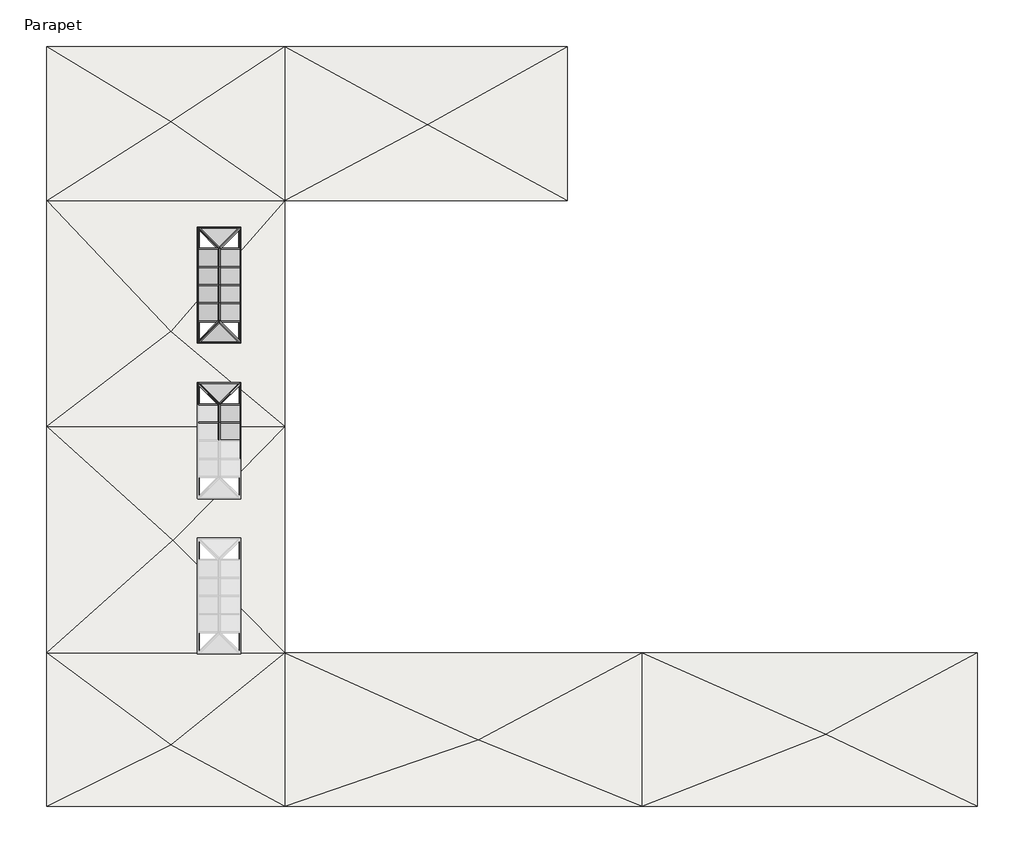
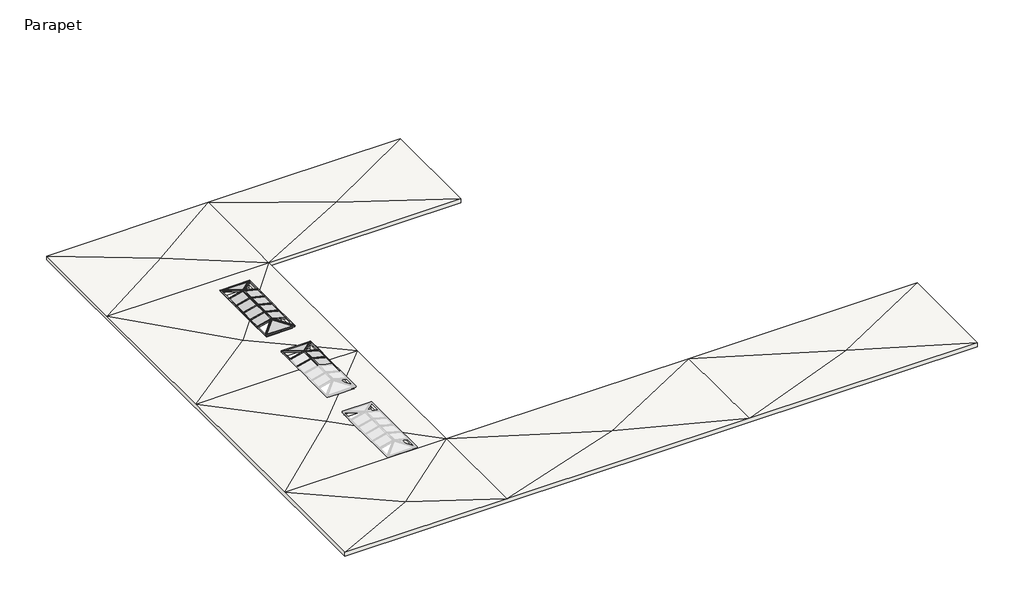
# One storey, part 2 of 2: 57 members, 13 plates, 1 roof.
"""IFC4 building model written with IfcOpenShell, lengths in millimetres."""

import ifcopenshell
import ifcopenshell.guid

model = None  # the IFC model being written
_history = None  # IfcOwnerHistory: only IFC2X3 demands one
_inside = {}  # id of a spatial element -> (the spatial element, [elements in it])
_under = {}  # id of a project, library or spatial element -> (it, [spatial elements below it])
_declared = {}  # id of a project -> (the project, [libraries it declares])
_typed = {}  # id of a type object -> (the type object, [elements of that type])
_made_of = {}  # id of a material, layer set ... -> (it, [elements and type objects made of it])


def new_model(schema):
    """Start an empty IFC model of exactly this schema.

    Asked for "IFC4X3", IfcOpenShell would pick the latest addendum, in which some entities
    have other attributes; the version numbers below select the first issue.
    IFC2X3 requires an IfcOwnerHistory on every rooted entity: one is made here for all.
    """
    global model, _history
    if schema == "IFC4X3":
        model = ifcopenshell.file(schema_version=(4, 3, 0, 0))
    else:
        model = ifcopenshell.file(schema=schema)
    _inside.clear()
    _under.clear()
    _declared.clear()
    _typed.clear()
    _made_of.clear()
    _history = None
    if model.schema == "IFC2X3":
        org = make("IfcOrganization", Name="unknown")
        user = make(
            "IfcPersonAndOrganization",
            ThePerson=make("IfcPerson", FamilyName="unknown"),
            TheOrganization=org,
        )
        app = make(
            "IfcApplication",
            ApplicationDeveloper=org,
            Version="unknown",
            ApplicationFullName="unknown",
            ApplicationIdentifier="unknown",
        )
        _history = make(
            "IfcOwnerHistory",
            OwningUser=user,
            OwningApplication=app,
            ChangeAction="ADDED",
            CreationDate=0,
        )
    return model


def make(cls, **values):
    """One entity of the class cls with the attributes given. An attribute that is None is left unset."""
    return model.create_entity(
        cls, **{name: value for name, value in values.items() if value is not None}
    )


def rooted(cls, **values):
    """An entity with a GlobalId (a new one), such as an element, a storey or a relation."""
    return make(cls, GlobalId=ifcopenshell.guid.new(), OwnerHistory=_history, **values)


def si_unit(unit_type, name, prefix=None):
    """IfcSIUnit, for example si_unit("LENGTHUNIT", "METRE", prefix="MILLI")."""
    return make("IfcSIUnit", UnitType=unit_type, Prefix=prefix, Name=name)


def assignment(units):
    """IfcUnitAssignment: the units of a project."""
    return None if units is None else make("IfcUnitAssignment", Units=units)


def point(xyz):
    """IfcCartesianPoint."""
    return None if xyz is None else make("IfcCartesianPoint", Coordinates=xyz)


def direction(xyz):
    """IfcDirection."""
    return None if xyz is None else make("IfcDirection", DirectionRatios=xyz)


def frame(location, z_axis=None, x_axis=None):
    """IfcAxis2Placement3D, a coordinate frame: its origin and axes. An axis left out is left unset."""
    return make(
        "IfcAxis2Placement3D",
        Location=point(location),
        Axis=direction(z_axis),
        RefDirection=direction(x_axis),
    )


def origin():
    """The frame at (0, 0, 0) with its axes left unset."""
    return frame((0.0, 0.0, 0.0))


def origin_with_axes():
    """The frame at (0, 0, 0) with the z axis (0, 0, 1) and the x axis (1, 0, 0) written out."""
    return frame((0.0, 0.0, 0.0), z_axis=(0.0, 0.0, 1.0), x_axis=(1.0, 0.0, 0.0))


def place(relative_to, where):
    """IfcLocalPlacement: puts the frame where relative to a parent placement (None: the world)."""
    return make(
        "IfcLocalPlacement", PlacementRelTo=relative_to, RelativePlacement=where
    )


def context(
    kind, dimensions, precision=None, world=None, true_north=None, identifier=None
):
    """IfcGeometricRepresentationContext, for example the 3D "Model" context."""
    return make(
        "IfcGeometricRepresentationContext",
        ContextIdentifier=identifier,
        ContextType=kind,
        CoordinateSpaceDimension=dimensions,
        Precision=precision,
        WorldCoordinateSystem=world,
        TrueNorth=true_north,
    )


def project(units=None, contexts=None):
    """IfcProject with its units and contexts."""
    return rooted(
        "IfcProject",
        Name="project",
        RepresentationContexts=contexts,
        UnitsInContext=assignment(units),
    )


def spatial(cls, under=None, at=None, **own):
    """A site, building, storey or space (cls), placed at a placement, below another one or the project."""
    s = rooted(cls, ObjectPlacement=at, **own)
    if under is not None:
        _under.setdefault(under.id(), (under, []))[1].append(s)
    return s


def polyline(points):
    """IfcPolyline through the points."""
    return make("IfcPolyline", Points=[point(p) for p in points])


def outline(outer, holes=None, kind="AREA"):
    """IfcArbitraryClosedProfileDef: a profile drawn as a closed curve; with holes, ...WithVoids."""
    if holes is None:
        return make("IfcArbitraryClosedProfileDef", ProfileType=kind, OuterCurve=outer)
    return make(
        "IfcArbitraryProfileDefWithVoids",
        ProfileType=kind,
        OuterCurve=outer,
        InnerCurves=holes,
    )


def extrude(swept, where, along, depth):
    """IfcExtrudedAreaSolid: the profile swept, set in the frame where, extruded along a direction by depth."""
    return make(
        "IfcExtrudedAreaSolid",
        SweptArea=swept,
        Position=where,
        ExtrudedDirection=direction(along),
        Depth=depth,
    )


def faces_of(points, faces, orient=None, outer=None):
    """IfcFace entities. A face is a list of loops; a loop is a list of indices into points, from 0.

    orient and outer hold one flag for each loop. By default every Orientation is true, the
    first loop of a face is its IfcFaceOuterBound and the others are IfcFaceBound.
    """
    made = []
    for i, loops in enumerate(faces):
        bounds = []
        for j, loop in enumerate(loops):
            is_outer = j == 0 if outer is None else outer[i][j]
            bounds.append(
                make(
                    "IfcFaceOuterBound" if is_outer else "IfcFaceBound",
                    Bound=make("IfcPolyLoop", Polygon=[points[k] for k in loop]),
                    Orientation=True if orient is None else orient[i][j],
                )
            )
        made.append(make("IfcFace", Bounds=bounds))
    return made


def faceted_brep(points, faces, orient=None, outer=None, voids=None):
    """IfcFacetedBrep: a solid bounded by flat faces; with voids (closed shells), ...WithVoids."""
    shared = [point(p) for p in points]
    hull = make("IfcClosedShell", CfsFaces=faces_of(shared, faces, orient, outer))
    if voids is None:
        return make("IfcFacetedBrep", Outer=hull)
    return make(
        "IfcFacetedBrepWithVoids",
        Outer=hull,
        Voids=[
            make(cls, CfsFaces=faces_of(shared, fs, o, b)) for cls, fs, o, b in voids
        ],
    )


def shape(context_of_items, identifier, shape_type, items):
    """IfcShapeRepresentation: the items that make up one representation, for example the "Body"."""
    return make(
        "IfcShapeRepresentation",
        ContextOfItems=context_of_items,
        RepresentationIdentifier=identifier,
        RepresentationType=shape_type,
        Items=items,
    )


def source(mapping_origin, context_of_items, identifier, shape_type, items):
    """IfcRepresentationMap: a shape defined once, which mapped items show again and again."""
    return make(
        "IfcRepresentationMap",
        MappingOrigin=mapping_origin,
        MappedRepresentation=shape(context_of_items, identifier, shape_type, items),
    )


def transform(
    local_origin,
    x_axis=None,
    y_axis=None,
    z_axis=None,
    scale=None,
    scale2=None,
    scale3=None,
    uniform=True,
):
    """IfcCartesianTransformationOperator3D, or its non-uniform kind. x_axis, y_axis, z_axis: its Axis1, 2, 3."""
    if uniform:
        return make(
            "IfcCartesianTransformationOperator3D",
            Axis1=direction(x_axis),
            Axis2=direction(y_axis),
            LocalOrigin=point(local_origin),
            Scale=scale,
            Axis3=direction(z_axis),
        )
    return make(
        "IfcCartesianTransformationOperator3DnonUniform",
        Axis1=direction(x_axis),
        Axis2=direction(y_axis),
        LocalOrigin=point(local_origin),
        Scale=scale,
        Axis3=direction(z_axis),
        Scale2=scale2,
        Scale3=scale3,
    )


def mapped(mapping_source, mapping_target):
    """IfcMappedItem: shows the shape of a source again, moved by a transform."""
    return make(
        "IfcMappedItem", MappingSource=mapping_source, MappingTarget=mapping_target
    )


def made_of(thing, what):
    """Note that an element or type object is made of a material, layer set ...; save() writes the relation."""
    if what is not None:
        _made_of.setdefault(what.id(), (what, []))[1].append(thing)
    return thing


def element(
    cls,
    number,
    at=None,
    inside=None,
    cuts=None,
    type_object=None,
    material=None,
    context=None,
    identifier="Body",
    shape_type=None,
    held_by="IfcProductDefinitionShape",
    body=None,
    shapes=None,
    **own,
):
    """One element of the class cls, such as IfcWall. Its Tag is "e" and its number.

    at: its placement. inside: the storey or other place that contains it. cuts: it is an
    opening in that element (IfcRelVoidsElement). A single representation is given by context,
    identifier, shape_type and body (its items); several are given by shapes. held_by: the class
    of the entity that holds the representations. save() writes the other relations.
    """
    e = rooted(cls, Tag="e%d" % number, ObjectPlacement=at, **own)
    if body is not None:
        shapes = [shape(context, identifier, shape_type, body)]
    if shapes is not None:
        e.Representation = make(held_by, Representations=shapes)
    if inside is not None:
        _inside.setdefault(inside.id(), (inside, []))[1].append(e)
    if cuts is not None:
        rooted(
            "IfcRelVoidsElement", RelatingBuildingElement=cuts, RelatedOpeningElement=e
        )
    if type_object is not None:
        _typed.setdefault(type_object.id(), (type_object, []))[1].append(e)
    return made_of(e, material)


def aggregate(whole, parts):
    """IfcRelAggregates: a whole, such as a stair, and the parts it consists of."""
    return rooted("IfcRelAggregates", RelatingObject=whole, RelatedObjects=parts)


def save(model, path):
    """Write the relations noted so far, then the file.

    IfcRelAggregates (storeys below a building ...), IfcRelContainedInSpatialStructure (elements
    in a storey), IfcRelDefinesByType, IfcRelAssociatesMaterial and IfcRelDeclares: one each for
    every whole, place, type object, material and project.
    """
    for whole, parts in _under.values():
        aggregate(whole, parts)
    for where, things in _inside.values():
        rooted(
            "IfcRelContainedInSpatialStructure",
            RelatedElements=things,
            RelatingStructure=where,
        )
    for kind, things in _typed.values():
        rooted("IfcRelDefinesByType", RelatedObjects=things, RelatingType=kind)
    for what, things in _made_of.values():
        rooted("IfcRelAssociatesMaterial", RelatedObjects=things, RelatingMaterial=what)
    for by, libraries in _declared.values():
        rooted("IfcRelDeclares", RelatingContext=by, RelatedDefinitions=libraries)
    model.write(path)


def member_01a96303(model_context):
    return source(origin(), model_context, "Body", "SweptSolid", [
        extrude(outline(polyline([(31.75, 63.5), (31.75, -63.5), (-31.75, -63.5), (-31.75, 63.5), (31.75, 63.5)])), frame((0.0, 0.0, -1441.8416906), z_axis=(0.0, 0.0, 1.0), x_axis=(1.0, 0.0, 0.0)), (0.0, 0.0, 1.0), 1441.8416906),
    ])


def member_1078ffe1(model_context):
    return source(origin(), model_context, "Body", "SweptSolid", [
        extrude(outline(polyline([(0.0, 0.0), (-150.0761281, -63.5), (-1524.0, -63.5), (-1524.0, 0.0), (0.0, 0.0)])), frame((0.0, -63.5, 0.0), z_axis=(0.0, 1.0, 0.0), x_axis=(0.0, 0.0, 1.0)), (0.0, 0.0, 1.0), 127.0),
    ])


def member_190da285(model_context):
    return source(origin(), model_context, "Body", "SweptSolid", [
        extrude(outline(polyline([(0.0, 0.0), (-150.0761281, -63.5), (-2185.8060871, -63.5), (-2185.8060871, 0.0), (0.0, 0.0)])), frame((0.0, -63.5, 0.0), z_axis=(0.0, 1.0, 0.0), x_axis=(0.0, 0.0, 1.0)), (0.0, 0.0, 1.0), 127.0),
    ])


def member_63bf33d2(model_context):
    return source(origin(), model_context, "Body", "SweptSolid", [
        extrude(outline(polyline([(0.0, 0.0), (0.0, -63.5), (-2035.729959, -63.5), (-2185.8060871, 0.0), (0.0, 0.0)])), frame((0.0, -63.5, 0.0), z_axis=(0.0, 1.0, 0.0), x_axis=(0.0, 0.0, 1.0)), (0.0, 0.0, 1.0), 127.0),
    ])


def member_51997095(model_context):
    return source(origin(), model_context, "Body", "SweptSolid", [
        extrude(outline(polyline([(0.0, 63.5), (0.0, -63.5), (-63.5, -63.5), (-63.5, 63.5), (0.0, 63.5)])), frame((0.0, 0.0, -1314.45), z_axis=(0.0, 0.0, 1.0), x_axis=(1.0, 0.0, 0.0)), (0.0, 0.0, 1.0), 1314.45),
    ])


def member_5783932f(model_context):
    return source(origin(), model_context, "Body", "SweptSolid", [
        extrude(outline(polyline([(0.0, 63.5), (0.0, -63.5), (-63.5, -63.5), (-63.5, 63.5), (0.0, 63.5)])), frame((0.0, 0.0, -1282.7), z_axis=(0.0, 0.0, 1.0), x_axis=(1.0, 0.0, 0.0)), (0.0, 0.0, 1.0), 1282.7),
    ])


def member_8e9367d3(model_context):
    return source(origin(), model_context, "Body", "SweptSolid", [
        extrude(outline(polyline([(0.0, 0.0), (0.0, -63.5), (-1373.9238719, -63.5), (-1524.0, 0.0), (0.0, 0.0)])), frame((0.0, -63.5, 0.0), z_axis=(0.0, 1.0, 0.0), x_axis=(0.0, 0.0, 1.0)), (0.0, 0.0, 1.0), 127.0),
    ])


def member_bf957473(model_context):
    return source(origin(), model_context, "Body", "SweptSolid", [
        extrude(outline(polyline([(0.0, 0.0), (-150.0761281, -63.5), (-2120.3517853, -63.5), (-2185.8060871, 0.0), (0.0, 0.0)])), frame((0.0, -63.5, 0.0), z_axis=(0.0, 1.0, 0.0), x_axis=(0.0, 0.0, 1.0)), (0.0, 0.0, 1.0), 127.0),
    ])


def member_35848865(model_context):
    return source(origin(), model_context, "Body", "SweptSolid", [
        extrude(outline(polyline([(0.0, 0.0), (-65.4543018, -63.5), (-2035.729959, -63.5), (-2185.8060871, 0.0), (0.0, 0.0)])), frame((0.0, -63.5, 0.0), z_axis=(0.0, 1.0, 0.0), x_axis=(0.0, 0.0, 1.0)), (0.0, 0.0, 1.0), 127.0),
    ])


def member_aca151d9(model_context):
    return source(origin(), model_context, "Body", "SweptSolid", [
        extrude(outline(polyline([(0.0, 0.0), (-150.0761281, -63.5), (-2893.923872, -63.5), (-3044.0000001, 0.0), (0.0, 0.0)])), frame((0.0, -63.5, 0.0), z_axis=(0.0, 1.0, 0.0), x_axis=(0.0, 0.0, 1.0)), (0.0, 0.0, 1.0), 127.0),
    ])


def system_panel_glazed_08fbef77(model_context):
    return source(origin(), model_context, "Body", "SweptSolid", [
        extrude(outline(polyline([(609.6, 19.05), (-609.6, 19.05), (-609.6, 44.45), (609.6, 44.45), (609.6, 19.05)])), origin_with_axes(), (0.0, 0.0, 1.0), 1441.8416906),
    ])


def system_panel_glazed_1440a41f(model_context):
    return source(origin(), model_context, "Body", "SweptSolid", [
        extrude(outline(polyline([(0.0, -1371.923872), (0.0, 1371.923872), (1414.1467586, 0.0), (0.0, -1371.923872)])), frame((0.0, 19.05, 0.0), z_axis=(0.0, 1.0, 0.0), x_axis=(0.0, 0.0, 1.0)), (0.0, 0.0, 1.0), 25.4),
    ])


model = new_model("IFC4")

# Units and contexts
model_context = context("Model", 3, world=origin())
ifc_project = project(units=[si_unit("LENGTHUNIT", "METRE", prefix="MILLI")], contexts=[model_context])

# Site, building, storey
site = spatial("IfcSite", under=ifc_project)
building = spatial("IfcBuilding", under=site)
storey = spatial("IfcBuildingStorey", under=building, Name="Parapet", Elevation=11582.4)

# Members
placement = place(None, origin())
member_shape = member_01a96303(model_context)
element("IfcMember", 1, ObjectType="Rectangular Mullion : 2.5\" x 5\" rectangular", at=placement, inside=storey, context=model_context, shape_type="MappedRepresentation", body=[
    mapped(member_shape, transform((12528.5354039, 34305.8, 11947.4989878), x_axis=(0.0, 1.0, 0.0), y_axis=(-0.24253562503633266, 0.0, -0.9701425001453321), z_axis=(-0.9701425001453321, 0.0, 0.24253562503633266))),
])
element("IfcMember", 2, ObjectType="Rectangular Mullion : 2.5\" x 5\" rectangular", at=placement, inside=storey, context=model_context, shape_type="MappedRepresentation", body=[
    mapped(member_shape, transform((12528.5354039, 39436.6, 11947.4989878), x_axis=(0.0, 1.0, 0.0), y_axis=(-0.24253562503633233, 0.0, -0.9701425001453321), z_axis=(-0.9701425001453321, 0.0, 0.24253562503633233))),
])
element("IfcMember", 3, ObjectType="Rectangular Mullion : 2.5\" x 5\" rectangular", at=placement, inside=storey, context=model_context, shape_type="MappedRepresentation", body=[
    mapped(member_shape, transform((12528.5354039, 36871.2, 11947.4989878), x_axis=(0.0, 1.0, 0.0), y_axis=(-0.24253562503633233, 0.0, -0.9701425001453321), z_axis=(-0.9701425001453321, 0.0, 0.24253562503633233))),
])
element("IfcMember", 4, ObjectType="Rectangular Mullion : 2.5\" x 5\" rectangular", at=placement, inside=storey, context=model_context, shape_type="MappedRepresentation", body=[
    mapped(member_shape, transform((12528.5354039, 38153.9, 11947.4989878), x_axis=(0.0, 1.0, 0.0), y_axis=(-0.24253562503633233, 0.0, -0.9701425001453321), z_axis=(-0.9701425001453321, 0.0, 0.24253562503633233))),
])
element("IfcMember", 5, ObjectType="Rectangular Mullion : 2.5\" x 5\" rectangular", at=placement, inside=storey, context=model_context, shape_type="MappedRepresentation", body=[
    mapped(member_shape, transform((12528.5354039, 35588.5, 11947.4989878), x_axis=(0.0, 1.0, 0.0), y_axis=(-0.24253562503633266, 0.0, -0.9701425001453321), z_axis=(-0.9701425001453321, 0.0, 0.24253562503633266))),
])
element("IfcMember", 6, ObjectType="Rectangular Mullion : 2.5\" x 5\" rectangular", at=placement, inside=storey, context=model_context, shape_type="MappedRepresentation", body=[
    mapped(member_shape, transform((12405.3273064, 39436.6, 11947.4989878), x_axis=(0.0, -1.0, 0.0), y_axis=(0.24253562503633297, 0.0, -0.9701425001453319), z_axis=(0.9701425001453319, 0.0, 0.24253562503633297))),
])
element("IfcMember", 7, ObjectType="Rectangular Mullion : 2.5\" x 5\" rectangular", at=placement, inside=storey, context=model_context, shape_type="MappedRepresentation", body=[
    mapped(member_shape, transform((12405.3273064, 34305.8, 11947.4989878), x_axis=(0.0, -1.0, 0.0), y_axis=(0.24253562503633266, 0.0, -0.9701425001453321), z_axis=(0.9701425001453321, 0.0, 0.24253562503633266))),
])
element("IfcMember", 8, ObjectType="Rectangular Mullion : 2.5\" x 5\" rectangular", at=placement, inside=storey, context=model_context, shape_type="MappedRepresentation", body=[
    mapped(member_shape, transform((12405.3273064, 36871.2, 11947.4989878), x_axis=(0.0, -1.0, 0.0), y_axis=(0.24253562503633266, 0.0, -0.9701425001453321), z_axis=(0.9701425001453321, 0.0, 0.24253562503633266))),
])
element("IfcMember", 9, ObjectType="Rectangular Mullion : 2.5\" x 5\" rectangular", at=placement, inside=storey, context=model_context, shape_type="MappedRepresentation", body=[
    mapped(member_shape, transform((12405.3273064, 35588.5, 11947.4989878), x_axis=(0.0, -1.0, 0.0), y_axis=(0.24253562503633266, 0.0, -0.9701425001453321), z_axis=(0.9701425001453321, 0.0, 0.24253562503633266))),
])
element("IfcMember", 10, ObjectType="Rectangular Mullion : 2.5\" x 5\" rectangular", at=placement, inside=storey, context=model_context, shape_type="MappedRepresentation", body=[
    mapped(member_shape, transform((12405.3273064, 38153.9, 11947.4989878), x_axis=(0.0, -1.0, 0.0), y_axis=(0.24253562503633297, 0.0, -0.9701425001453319), z_axis=(0.9701425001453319, 0.0, 0.24253562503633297))),
])
element("IfcMember", 11, ObjectType="Rectangular Mullion : 2.5\" x 5\" rectangular", at=placement, inside=storey, context=model_context, shape_type="MappedRepresentation", body=[
    mapped(member_shape, transform((12528.5354039, 28448.3989878, 11947.4989878), x_axis=(0.0, 1.0, 0.0), y_axis=(-0.24253562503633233, 0.0, -0.9701425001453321), z_axis=(-0.9701425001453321, 0.0, 0.24253562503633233))),
])
element("IfcMember", 12, ObjectType="Rectangular Mullion : 2.5\" x 5\" rectangular", at=placement, inside=storey, context=model_context, shape_type="MappedRepresentation", body=[
    mapped(member_shape, transform((12528.5354039, 27165.6989878, 11947.4989878), x_axis=(0.0, 1.0, 0.0), y_axis=(-0.24253562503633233, 0.0, -0.9701425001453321), z_axis=(-0.9701425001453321, 0.0, 0.24253562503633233))),
])
element("IfcMember", 13, ObjectType="Rectangular Mullion : 2.5\" x 5\" rectangular", at=placement, inside=storey, context=model_context, shape_type="MappedRepresentation", body=[
    mapped(member_shape, transform((12405.3273064, 28448.3989878, 11947.4989878), x_axis=(0.0, -1.0, 0.0), y_axis=(0.24253562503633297, 0.0, -0.9701425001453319), z_axis=(0.9701425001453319, 0.0, 0.24253562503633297))),
])
element("IfcMember", 14, ObjectType="Rectangular Mullion : 2.5\" x 5\" rectangular", at=placement, inside=storey, context=model_context, shape_type="MappedRepresentation", body=[
    mapped(member_shape, transform((12405.3273064, 27165.6989878, 11947.4989878), x_axis=(0.0, -1.0, 0.0), y_axis=(0.24253562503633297, 0.0, -0.9701425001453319), z_axis=(0.9701425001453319, 0.0, 0.24253562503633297))),
])
member_2_shape = member_1078ffe1(model_context)
element("IfcMember", 15, ObjectType="Rectangular Mullion : 2.5\" x 5\" rectangular", at=placement, inside=storey, context=model_context, shape_type="MappedRepresentation", body=[
    mapped(member_2_shape, transform((13988.9313552, 40960.6, 11582.4), x_axis=(0.970142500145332, 0.0, -0.242535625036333), y_axis=(-0.242535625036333, 0.0, -0.970142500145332), z_axis=(0.0, 1.0, 0.0))),
])
element("IfcMember", 16, ObjectType="Rectangular Mullion : 2.5\" x 5\" rectangular", at=placement, inside=storey, context=model_context, shape_type="MappedRepresentation", body=[
    mapped(member_2_shape, transform((10944.9313551, 32781.8, 11582.4), x_axis=(-0.970142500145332, 0.0, -0.242535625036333), y_axis=(0.242535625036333, 0.0, -0.970142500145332), z_axis=(0.0, -1.0, 0.0))),
])
element("IfcMember", 17, ObjectType="Rectangular Mullion : 2.5\" x 5\" rectangular", at=placement, inside=storey, context=model_context, shape_type="MappedRepresentation", body=[
    mapped(member_2_shape, transform((13988.9313552, 29972.3989878, 11582.4), x_axis=(0.970142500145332, 0.0, -0.242535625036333), y_axis=(-0.242535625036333, 0.0, -0.970142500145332), z_axis=(0.0, 1.0, 0.0))),
])
member_3_shape = member_190da285(model_context)
element("IfcMember", 18, ObjectType="Rectangular Mullion : 2.5\" x 5\" rectangular", at=placement, inside=storey, context=model_context, shape_type="MappedRepresentation", body=[
    mapped(member_3_shape, transform((13988.9313552, 32781.8, 11582.4), x_axis=(-0.6755205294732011, -0.717740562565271, 0.16888013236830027), y_axis=(-0.24253562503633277, 0.0, -0.9701425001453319), z_axis=(0.696310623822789, -0.696310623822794, -0.174077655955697))),
])
member_4_shape = member_63bf33d2(model_context)
element("IfcMember", 19, ObjectType="Rectangular Mullion : 2.5\" x 5\" rectangular", at=placement, inside=storey, context=model_context, shape_type="MappedRepresentation", body=[
    mapped(member_4_shape, transform((12466.9313552, 39438.5999999, 11962.9), x_axis=(-0.6755205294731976, 0.7177405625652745, 0.1688801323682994), y_axis=(-0.24253562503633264, 0.0, -0.970142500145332), z_axis=(-0.6963106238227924, -0.6963106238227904, 0.1740776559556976))),
])
element("IfcMember", 20, ObjectType="Rectangular Mullion : 2.5\" x 5\" rectangular", at=placement, inside=storey, context=model_context, shape_type="MappedRepresentation", body=[
    mapped(member_4_shape, transform((12466.9313552, 28450.3989877, 11962.9), x_axis=(-0.6755205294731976, 0.7177405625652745, 0.1688801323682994), y_axis=(-0.24253562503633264, 0.0, -0.970142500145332), z_axis=(-0.6963106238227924, -0.6963106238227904, 0.1740776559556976))),
])
member_5_shape = member_51997095(model_context)
element("IfcMember", 21, ObjectType="Rectangular Mullion : 2.5\" x 5\" rectangular", at=placement, inside=storey, context=model_context, shape_type="MappedRepresentation", body=[
    mapped(member_5_shape, transform((12466.9313552, 34274.05, 11962.9), x_axis=(-0.970142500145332, 0.0, 0.242535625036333), y_axis=(-0.242535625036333, 0.0, -0.970142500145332), z_axis=(0.0, -1.0, 0.0))),
])
element("IfcMember", 22, ObjectType="Rectangular Mullion : 2.5\" x 5\" rectangular", at=placement, inside=storey, context=model_context, shape_type="MappedRepresentation", body=[
    mapped(member_5_shape, transform((12466.9313552, 39468.35, 11962.9), x_axis=(0.970142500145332, 0.0, 0.242535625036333), y_axis=(0.242535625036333, 0.0, -0.970142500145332), z_axis=(0.0, 1.0, 0.0))),
])
element("IfcMember", 23, ObjectType="Rectangular Mullion : 2.5\" x 5\" rectangular", at=placement, inside=storey, context=model_context, shape_type="MappedRepresentation", body=[
    mapped(member_5_shape, transform((12466.9313552, 28480.1489878, 11962.9), x_axis=(0.970142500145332, 0.0, 0.242535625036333), y_axis=(0.242535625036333, 0.0, -0.970142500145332), z_axis=(0.0, 1.0, 0.0))),
])
member_6_shape = member_5783932f(model_context)
element("IfcMember", 24, ObjectType="Rectangular Mullion : 2.5\" x 5\" rectangular", at=placement, inside=storey, context=model_context, shape_type="MappedRepresentation", body=[
    mapped(member_6_shape, transform((12466.9313552, 36871.2, 11962.9), x_axis=(-0.970142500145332, 0.0, 0.242535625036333), y_axis=(-0.242535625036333, 0.0, -0.970142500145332), z_axis=(0.0, -1.0, 0.0))),
])
element("IfcMember", 25, ObjectType="Rectangular Mullion : 2.5\" x 5\" rectangular", at=placement, inside=storey, context=model_context, shape_type="MappedRepresentation", body=[
    mapped(member_6_shape, transform((12466.9313552, 35588.5, 11962.9), x_axis=(-0.970142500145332, 0.0, 0.242535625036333), y_axis=(-0.242535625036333, 0.0, -0.970142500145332), z_axis=(0.0, -1.0, 0.0))),
])
element("IfcMember", 26, ObjectType="Rectangular Mullion : 2.5\" x 5\" rectangular", at=placement, inside=storey, context=model_context, shape_type="MappedRepresentation", body=[
    mapped(member_6_shape, transform((12466.9313552, 36871.2, 11962.9), x_axis=(0.970142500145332, 0.0, 0.242535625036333), y_axis=(0.242535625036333, 0.0, -0.970142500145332), z_axis=(0.0, 1.0, 0.0))),
])
element("IfcMember", 27, ObjectType="Rectangular Mullion : 2.5\" x 5\" rectangular", at=placement, inside=storey, context=model_context, shape_type="MappedRepresentation", body=[
    mapped(member_6_shape, transform((12466.9313552, 38153.9, 11962.9), x_axis=(0.970142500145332, 0.0, 0.242535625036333), y_axis=(0.242535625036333, 0.0, -0.970142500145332), z_axis=(0.0, 1.0, 0.0))),
])
element("IfcMember", 28, ObjectType="Rectangular Mullion : 2.5\" x 5\" rectangular", at=placement, inside=storey, context=model_context, shape_type="MappedRepresentation", body=[
    mapped(member_6_shape, transform((12466.9313552, 27165.6989878, 11962.9), x_axis=(0.970142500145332, 0.0, 0.242535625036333), y_axis=(0.242535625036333, 0.0, -0.970142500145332), z_axis=(0.0, 1.0, 0.0))),
])
element("IfcMember", 29, ObjectType="Rectangular Mullion : 2.5\" x 5\" rectangular", at=placement, inside=storey, context=model_context, shape_type="MappedRepresentation", body=[
    mapped(member_5_shape, transform((12466.9313552, 38153.9, 11962.9), x_axis=(-0.970142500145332, 0.0, 0.242535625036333), y_axis=(-0.242535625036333, 0.0, -0.970142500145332), z_axis=(0.0, -1.0, 0.0))),
])
element("IfcMember", 30, ObjectType="Rectangular Mullion : 2.5\" x 5\" rectangular", at=placement, inside=storey, context=model_context, shape_type="MappedRepresentation", body=[
    mapped(member_5_shape, transform((12466.9313552, 35588.5, 11962.9), x_axis=(0.970142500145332, 0.0, 0.242535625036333), y_axis=(0.242535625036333, 0.0, -0.970142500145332), z_axis=(0.0, 1.0, 0.0))),
])
element("IfcMember", 31, ObjectType="Rectangular Mullion : 2.5\" x 5\" rectangular", at=placement, inside=storey, context=model_context, shape_type="MappedRepresentation", body=[
    mapped(member_5_shape, transform((12466.9313552, 27165.6989878, 11962.9), x_axis=(-0.970142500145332, 0.0, 0.242535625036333), y_axis=(-0.242535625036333, 0.0, -0.970142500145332), z_axis=(0.0, -1.0, 0.0))),
])
member_7_shape = member_8e9367d3(model_context)
element("IfcMember", 32, ObjectType="Rectangular Mullion : 2.5\" x 5\" rectangular", at=placement, inside=storey, context=model_context, shape_type="MappedRepresentation", body=[
    mapped(member_7_shape, transform((13988.9313552, 34305.8, 11582.4), x_axis=(0.970142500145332, 0.0, -0.242535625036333), y_axis=(-0.242535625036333, 0.0, -0.970142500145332), z_axis=(0.0, 1.0, 0.0))),
])
element("IfcMember", 33, ObjectType="Rectangular Mullion : 2.5\" x 5\" rectangular", at=placement, inside=storey, context=model_context, shape_type="MappedRepresentation", body=[
    mapped(member_7_shape, transform((10944.9313551, 39436.6, 11582.4), x_axis=(-0.970142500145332, 0.0, -0.242535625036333), y_axis=(0.242535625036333, 0.0, -0.970142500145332), z_axis=(0.0, -1.0, 0.0))),
])
element("IfcMember", 34, ObjectType="Rectangular Mullion : 2.5\" x 5\" rectangular", at=placement, inside=storey, context=model_context, shape_type="MappedRepresentation", body=[
    mapped(member_7_shape, transform((10944.9313551, 28448.3989878, 11582.4), x_axis=(-0.970142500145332, 0.0, -0.242535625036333), y_axis=(0.242535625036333, 0.0, -0.970142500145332), z_axis=(0.0, -1.0, 0.0))),
])
element("IfcMember", 35, ObjectType="Rectangular Mullion : 2.5\" x 5\" rectangular", at=placement, inside=storey, context=model_context, shape_type="MappedRepresentation", body=[
    mapped(member_6_shape, transform((13988.9313552, 39436.6, 11582.4), x_axis=(0.970142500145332, 0.0, -0.242535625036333), y_axis=(-0.242535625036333, 0.0, -0.970142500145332), z_axis=(0.0, 1.0, 0.0))),
])
element("IfcMember", 36, ObjectType="Rectangular Mullion : 2.5\" x 5\" rectangular", at=placement, inside=storey, context=model_context, shape_type="MappedRepresentation", body=[
    mapped(member_6_shape, transform((13988.9313552, 36871.2, 11582.4), x_axis=(0.970142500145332, 0.0, -0.242535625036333), y_axis=(-0.242535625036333, 0.0, -0.970142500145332), z_axis=(0.0, 1.0, 0.0))),
])
element("IfcMember", 37, ObjectType="Rectangular Mullion : 2.5\" x 5\" rectangular", at=placement, inside=storey, context=model_context, shape_type="MappedRepresentation", body=[
    mapped(member_6_shape, transform((13988.9313552, 38153.9, 11582.4), x_axis=(0.970142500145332, 0.0, -0.242535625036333), y_axis=(-0.242535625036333, 0.0, -0.970142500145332), z_axis=(0.0, 1.0, 0.0))),
])
element("IfcMember", 38, ObjectType="Rectangular Mullion : 2.5\" x 5\" rectangular", at=placement, inside=storey, context=model_context, shape_type="MappedRepresentation", body=[
    mapped(member_6_shape, transform((13988.9313552, 35588.5, 11582.4), x_axis=(0.970142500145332, 0.0, -0.242535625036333), y_axis=(-0.242535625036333, 0.0, -0.970142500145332), z_axis=(0.0, 1.0, 0.0))),
])
element("IfcMember", 39, ObjectType="Rectangular Mullion : 2.5\" x 5\" rectangular", at=placement, inside=storey, context=model_context, shape_type="MappedRepresentation", body=[
    mapped(member_6_shape, transform((10944.9313551, 36871.2, 11582.4), x_axis=(-0.970142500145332, 0.0, -0.242535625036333), y_axis=(0.242535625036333, 0.0, -0.970142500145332), z_axis=(0.0, -1.0, 0.0))),
])
element("IfcMember", 40, ObjectType="Rectangular Mullion : 2.5\" x 5\" rectangular", at=placement, inside=storey, context=model_context, shape_type="MappedRepresentation", body=[
    mapped(member_6_shape, transform((10944.9313551, 35588.5, 11582.4), x_axis=(-0.970142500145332, 0.0, -0.242535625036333), y_axis=(0.242535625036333, 0.0, -0.970142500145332), z_axis=(0.0, -1.0, 0.0))),
])
element("IfcMember", 41, ObjectType="Rectangular Mullion : 2.5\" x 5\" rectangular", at=placement, inside=storey, context=model_context, shape_type="MappedRepresentation", body=[
    mapped(member_6_shape, transform((10944.9313551, 38153.9, 11582.4), x_axis=(-0.970142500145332, 0.0, -0.242535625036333), y_axis=(0.242535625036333, 0.0, -0.970142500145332), z_axis=(0.0, -1.0, 0.0))),
])
element("IfcMember", 42, ObjectType="Rectangular Mullion : 2.5\" x 5\" rectangular", at=placement, inside=storey, context=model_context, shape_type="MappedRepresentation", body=[
    mapped(member_6_shape, transform((10944.9313551, 34305.8, 11582.4), x_axis=(-0.970142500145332, 0.0, -0.242535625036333), y_axis=(0.242535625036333, 0.0, -0.970142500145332), z_axis=(0.0, -1.0, 0.0))),
])
element("IfcMember", 43, ObjectType="Rectangular Mullion : 2.5\" x 5\" rectangular", at=placement, inside=storey, context=model_context, shape_type="MappedRepresentation", body=[
    mapped(member_6_shape, transform((13988.9313552, 28448.3989878, 11582.4), x_axis=(0.970142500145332, 0.0, -0.242535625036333), y_axis=(-0.242535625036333, 0.0, -0.970142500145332), z_axis=(0.0, 1.0, 0.0))),
])
element("IfcMember", 44, ObjectType="Rectangular Mullion : 2.5\" x 5\" rectangular", at=placement, inside=storey, context=model_context, shape_type="MappedRepresentation", body=[
    mapped(member_6_shape, transform((13988.9313552, 25882.9989878, 11582.4), x_axis=(0.970142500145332, 0.0, -0.242535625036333), y_axis=(-0.242535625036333, 0.0, -0.970142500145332), z_axis=(0.0, 1.0, 0.0))),
])
element("IfcMember", 45, ObjectType="Rectangular Mullion : 2.5\" x 5\" rectangular", at=placement, inside=storey, context=model_context, shape_type="MappedRepresentation", body=[
    mapped(member_6_shape, transform((13988.9313552, 27165.6989878, 11582.4), x_axis=(0.970142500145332, 0.0, -0.242535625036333), y_axis=(-0.242535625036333, 0.0, -0.970142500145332), z_axis=(0.0, 1.0, 0.0))),
])
element("IfcMember", 46, ObjectType="Rectangular Mullion : 2.5\" x 5\" rectangular", at=placement, inside=storey, context=model_context, shape_type="MappedRepresentation", body=[
    mapped(member_3_shape, transform((10944.9313551, 40960.6, 11582.4), x_axis=(0.6755205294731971, 0.717740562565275, 0.1688801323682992), y_axis=(0.24253562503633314, 0.0, -0.970142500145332), z_axis=(-0.6963106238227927, 0.6963106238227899, -0.17407765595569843))),
])
element("IfcMember", 47, ObjectType="Rectangular Mullion : 2.5\" x 5\" rectangular", at=placement, inside=storey, context=model_context, shape_type="MappedRepresentation", body=[
    mapped(member_3_shape, transform((10944.9313551, 29972.3989878, 11582.4), x_axis=(0.6755205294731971, 0.717740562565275, 0.1688801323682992), y_axis=(0.24253562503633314, 0.0, -0.970142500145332), z_axis=(-0.6963106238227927, 0.6963106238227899, -0.17407765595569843))),
])
element("IfcMember", 48, ObjectType="Rectangular Mullion : 2.5\" x 5\" rectangular", at=placement, inside=storey, context=model_context, shape_type="MappedRepresentation", body=[
    mapped(member_4_shape, transform((12466.9313552, 34303.8, 11962.9), x_axis=(0.6755205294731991, -0.7177405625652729, 0.16888013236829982), y_axis=(0.24253562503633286, 0.0, -0.970142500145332), z_axis=(0.6963106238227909, 0.6963106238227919, 0.17407765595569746))),
])
member_8_shape = member_bf957473(model_context)
element("IfcMember", 49, ObjectType="Rectangular Mullion : 2.5\" x 5\" rectangular", at=placement, inside=storey, context=model_context, shape_type="MappedRepresentation", body=[
    mapped(member_8_shape, transform((10944.9313551, 32781.8, 11582.4), x_axis=(-0.7177405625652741, 0.6755205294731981, 0.16888013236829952), y_axis=(0.0, 0.24253562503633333, -0.9701425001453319), z_axis=(-0.6963106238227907, -0.6963106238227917, -0.17407765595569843))),
])
member_9_shape = member_35848865(model_context)
element("IfcMember", 50, ObjectType="Rectangular Mullion : 2.5\" x 5\" rectangular", at=placement, inside=storey, context=model_context, shape_type="MappedRepresentation", body=[
    mapped(member_9_shape, transform((12466.9313552, 34303.8, 11962.9), x_axis=(0.717740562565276, 0.6755205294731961, 0.16888013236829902), y_axis=(0.0, 0.24253562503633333, -0.9701425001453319), z_axis=(-0.6963106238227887, 0.6963106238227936, 0.1740776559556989))),
])
member_10_shape = member_aca151d9(model_context)
element("IfcMember", 51, ObjectType="Rectangular Mullion : 2.5\" x 5\" rectangular", at=placement, inside=storey, context=model_context, shape_type="MappedRepresentation", body=[
    mapped(member_10_shape, transform((13988.9313552, 32781.8, 11582.4), x_axis=(0.0, -0.970142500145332, -0.242535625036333), y_axis=(0.0, 0.242535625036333, -0.970142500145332), z_axis=(1.0, 0.0, 0.0))),
])
element("IfcMember", 52, ObjectType="Rectangular Mullion : 2.5\" x 5\" rectangular", at=placement, inside=storey, context=model_context, shape_type="MappedRepresentation", body=[
    mapped(member_9_shape, transform((12466.9313552, 39438.5999999, 11962.9), x_axis=(-0.7177405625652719, -0.6755205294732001, 0.16888013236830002), y_axis=(0.0, -0.24253562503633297, -0.9701425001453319), z_axis=(0.6963106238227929, -0.6963106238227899, 0.17407765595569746))),
])
element("IfcMember", 53, ObjectType="Rectangular Mullion : 2.5\" x 5\" rectangular", at=placement, inside=storey, context=model_context, shape_type="MappedRepresentation", body=[
    mapped(member_9_shape, transform((12466.9313552, 28450.3989877, 11962.9), x_axis=(-0.7177405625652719, -0.6755205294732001, 0.16888013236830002), y_axis=(0.0, -0.24253562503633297, -0.9701425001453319), z_axis=(0.6963106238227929, -0.6963106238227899, 0.17407765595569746))),
])
element("IfcMember", 54, ObjectType="Rectangular Mullion : 2.5\" x 5\" rectangular", at=placement, inside=storey, context=model_context, shape_type="MappedRepresentation", body=[
    mapped(member_8_shape, transform((13988.9313552, 40960.6, 11582.4), x_axis=(0.7177405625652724, -0.6755205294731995, 0.16888013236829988), y_axis=(0.0, -0.24253562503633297, -0.9701425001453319), z_axis=(0.6963106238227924, 0.6963106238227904, -0.1740776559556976))),
])
element("IfcMember", 55, ObjectType="Rectangular Mullion : 2.5\" x 5\" rectangular", at=placement, inside=storey, context=model_context, shape_type="MappedRepresentation", body=[
    mapped(member_8_shape, transform((13988.9313552, 29972.3989878, 11582.4), x_axis=(0.7177405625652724, -0.6755205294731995, 0.16888013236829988), y_axis=(0.0, -0.24253562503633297, -0.9701425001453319), z_axis=(0.6963106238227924, 0.6963106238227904, -0.1740776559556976))),
])
element("IfcMember", 56, ObjectType="Rectangular Mullion : 2.5\" x 5\" rectangular", at=placement, inside=storey, context=model_context, shape_type="MappedRepresentation", body=[
    mapped(member_10_shape, transform((10944.9313551, 40960.6, 11582.4), x_axis=(0.0, 0.970142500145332, -0.242535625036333), y_axis=(0.0, -0.242535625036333, -0.970142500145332), z_axis=(-1.0, 0.0, 0.0))),
])
element("IfcMember", 57, ObjectType="Rectangular Mullion : 2.5\" x 5\" rectangular", at=placement, inside=storey, context=model_context, shape_type="MappedRepresentation", body=[
    mapped(member_10_shape, transform((10944.9313551, 29972.3989878, 11582.4), x_axis=(0.0, 0.970142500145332, -0.242535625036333), y_axis=(0.0, -0.242535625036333, -0.970142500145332), z_axis=(-1.0, 0.0, 0.0))),
])

# Plates
system_panel_glazed_shape = system_panel_glazed_08fbef77(model_context)
element("IfcPlate", 58, ObjectType="System Panel : Glazed", at=placement, inside=storey, context=model_context, shape_type="MappedRepresentation", body=[
    mapped(system_panel_glazed_shape, transform((11006.5354039, 38795.25, 11597.8010122), x_axis=(0.0, -1.0, 0.0), y_axis=(0.242535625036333, 0.0, -0.970142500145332), z_axis=(0.970142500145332, 0.0, 0.242535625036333))),
])
element("IfcPlate", 59, ObjectType="System Panel : Glazed", at=placement, inside=storey, context=model_context, shape_type="MappedRepresentation", body=[
    mapped(system_panel_glazed_shape, transform((11006.5354039, 36229.85, 11597.8010122), x_axis=(0.0, -1.0, 0.0), y_axis=(0.242535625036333, 0.0, -0.970142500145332), z_axis=(0.970142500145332, 0.0, 0.242535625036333))),
])
element("IfcPlate", 60, ObjectType="System Panel : Glazed", at=placement, inside=storey, context=model_context, shape_type="MappedRepresentation", body=[
    mapped(system_panel_glazed_shape, transform((11006.5354039, 34947.15, 11597.8010122), x_axis=(0.0, -1.0, 0.0), y_axis=(0.242535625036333, 0.0, -0.970142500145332), z_axis=(0.970142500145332, 0.0, 0.242535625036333))),
])
element("IfcPlate", 61, ObjectType="System Panel : Glazed", at=placement, inside=storey, context=model_context, shape_type="MappedRepresentation", body=[
    mapped(system_panel_glazed_shape, transform((11006.5354039, 37512.55, 11597.8010122), x_axis=(0.0, -1.0, 0.0), y_axis=(0.242535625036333, 0.0, -0.970142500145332), z_axis=(0.970142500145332, 0.0, 0.242535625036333))),
])
element("IfcPlate", 62, ObjectType="System Panel : Glazed", at=placement, inside=storey, context=model_context, shape_type="MappedRepresentation", body=[
    mapped(system_panel_glazed_shape, transform((13927.3273065, 34947.15, 11597.8010122), x_axis=(0.0, 1.0, 0.0), y_axis=(-0.242535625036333, 0.0, -0.970142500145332), z_axis=(-0.970142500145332, 0.0, 0.242535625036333))),
])
element("IfcPlate", 63, ObjectType="System Panel : Glazed", at=placement, inside=storey, context=model_context, shape_type="MappedRepresentation", body=[
    mapped(system_panel_glazed_shape, transform((13927.3273065, 37512.55, 11597.8010122), x_axis=(0.0, 1.0, 0.0), y_axis=(-0.242535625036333, 0.0, -0.970142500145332), z_axis=(-0.970142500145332, 0.0, 0.242535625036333))),
])
element("IfcPlate", 64, ObjectType="System Panel : Glazed", at=placement, inside=storey, context=model_context, shape_type="MappedRepresentation", body=[
    mapped(system_panel_glazed_shape, transform((13927.3273065, 38795.25, 11597.8010122), x_axis=(0.0, 1.0, 0.0), y_axis=(-0.242535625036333, 0.0, -0.970142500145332), z_axis=(-0.970142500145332, 0.0, 0.242535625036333))),
])
element("IfcPlate", 65, ObjectType="System Panel : Glazed", at=placement, inside=storey, context=model_context, shape_type="MappedRepresentation", body=[
    mapped(system_panel_glazed_shape, transform((13927.3273065, 36229.85, 11597.8010122), x_axis=(0.0, 1.0, 0.0), y_axis=(-0.242535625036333, 0.0, -0.970142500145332), z_axis=(-0.970142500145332, 0.0, 0.242535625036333))),
])
element("IfcPlate", 66, ObjectType="System Panel : Glazed", at=placement, inside=storey, context=model_context, shape_type="MappedRepresentation", body=[
    mapped(system_panel_glazed_shape, transform((13927.3273065, 26524.3489878, 11597.8010122), x_axis=(0.0, 1.0, 0.0), y_axis=(-0.242535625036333, 0.0, -0.970142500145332), z_axis=(-0.970142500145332, 0.0, 0.242535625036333))),
])
element("IfcPlate", 67, ObjectType="System Panel : Glazed", at=placement, inside=storey, context=model_context, shape_type="MappedRepresentation", body=[
    mapped(system_panel_glazed_shape, transform((13927.3273065, 27807.0489878, 11597.8010122), x_axis=(0.0, 1.0, 0.0), y_axis=(-0.242535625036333, 0.0, -0.970142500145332), z_axis=(-0.970142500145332, 0.0, 0.242535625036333))),
])
system_panel_glazed_2_shape = system_panel_glazed_1440a41f(model_context)
element("IfcPlate", 68, ObjectType="System Panel : Glazed", at=placement, inside=storey, context=model_context, shape_type="MappedRepresentation", body=[
    mapped(system_panel_glazed_2_shape, transform((12466.9313552, 40898.9959512, 11597.8010122), x_axis=(-1.0, 0.0, 0.0), y_axis=(0.0, -0.242535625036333, -0.970142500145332), z_axis=(0.0, -0.970142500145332, 0.242535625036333))),
])
element("IfcPlate", 69, ObjectType="System Panel : Glazed", at=placement, inside=storey, context=model_context, shape_type="MappedRepresentation", body=[
    mapped(system_panel_glazed_2_shape, transform((12466.9313552, 32843.4040487, 11597.8010122), x_axis=(1.0, 0.0, 0.0), y_axis=(0.0, 0.242535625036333, -0.970142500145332), z_axis=(0.0, 0.970142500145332, 0.242535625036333))),
])
element("IfcPlate", 70, ObjectType="System Panel : Glazed", at=placement, inside=storey, context=model_context, shape_type="MappedRepresentation", body=[
    mapped(system_panel_glazed_2_shape, transform((12466.9313552, 29910.794939, 11597.8010122), x_axis=(-1.0, 0.0, 0.0), y_axis=(0.0, -0.242535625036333, -0.970142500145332), z_axis=(0.0, -0.970142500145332, 0.242535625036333))),
])

# Roof
element("IfcRoof", 71, ObjectType="Concrete Deck w/Tapered Insulation", at=placement, inside=storey, context=model_context, shape_type="Brep", body=[
    faceted_brep([(280.3207476, 53.9, 10972.8), (280.3207476, 53724.1, 10972.8), (37046.8207476, 53724.1, 10972.8), (37046.8207476, 42852.9, 10972.8), (17082.4207476, 42852.9, 10972.8), (17082.4207476, 10899.7, 10972.8), (66002.8207476, 10899.7, 10972.8), (66002.8207476, 53.9, 10972.8), (13861.9313552, 32908.8, 10972.8), (13861.9313552, 40833.6, 10972.8), (11071.9313551, 40833.6, 10972.8), (11071.9313551, 32908.8, 10972.8), (13871.9313552, 21936.0, 10972.8), (13871.9313552, 29860.8, 10972.8), (11051.7313551, 29860.8, 10972.8), (11051.7313551, 21936.0, 10972.8), (13871.9313551, 10963.2, 10972.8), (13871.9313551, 18888.0, 10972.8), (11051.7313551, 18888.0, 10972.8), (11051.7313551, 10963.2, 10972.8), (66002.8207476, 53.9, 11385.55), (42291.9207476, 53.9, 11385.55), (17082.4207476, 53.9, 11385.55), (280.3207476, 53.9, 11385.55), (280.3207476, 10899.7, 11385.55), (280.3207476, 26876.3, 11385.55), (280.3207476, 42852.9, 11385.55), (280.3207476, 53724.1, 11385.55), (17082.4207476, 53724.1, 11385.55), (37046.8207476, 53724.1, 11385.55), (37046.8207476, 42852.9, 11385.55), (17082.4207476, 42852.9, 11385.55), (17082.4207476, 26876.3, 11385.55), (17082.4207476, 10899.7, 11385.55), (42291.9207476, 10899.7, 11385.55), (66002.8207476, 10899.7, 11385.55), (9056.3451547, 4380.0549604, 11233.15), (9207.6490634, 18829.5782422, 11253.5216003), (13871.9313551, 14132.6559512, 11331.722944), (13871.9313551, 10963.2, 11384.4927576), (11051.7313551, 10963.2, 11384.4927576), (11051.7313551, 16972.5913189, 11284.4394788), (9056.3451547, 33581.7093414, 11290.4603517), (11051.7313551, 26876.3, 11385.55), (11051.7313551, 29860.8, 11343.2266994), (13510.1075021, 29860.8, 11343.2266994), (13871.9313552, 29558.513158, 11347.5134398), (13871.9313552, 26876.3, 11385.55), (9056.3451547, 48409.4923943, 11313.6126396), (11071.9313551, 35909.9809527, 11314.3401895), (11071.9313551, 40833.6, 11364.839119), (13861.9313552, 40833.6, 11364.839119), (13861.9313552, 39132.804067, 11347.394964), (13861.9313552, 32908.8, 11347.394964), (11071.9313551, 32908.8, 11314.3401895), (13871.9313552, 29860.8, 11347.5134398), (12247.6898196, 21936.0, 11304.490915), (11051.7313551, 21936.0, 11304.490915), (13871.9313552, 23595.707764, 11331.722944), (30746.4958573, 4741.7987313, 11233.15), (55296.7207476, 5136.574504, 11233.15), (27165.0995946, 48212.5437279, 11233.15), (13871.9313552, 21936.0, 11331.722944), (11051.7313551, 18888.0, 11284.4394788), (13871.9313551, 18888.0, 11331.722944)], [[[0, 1, 2, 3, 4, 5, 6, 7], [8, 9, 10, 11], [12, 13, 14, 15], [16, 17, 18, 19]], [[0, 7, 20, 21, 22, 23]], [[1, 0, 23, 24, 25, 26, 27]], [[2, 1, 27, 28, 29]], [[3, 2, 29, 30]], [[4, 3, 30, 31]], [[5, 4, 31, 32, 33]], [[6, 5, 33, 34, 35]], [[7, 6, 35, 20]], [[24, 23, 36]], [[37, 24, 33, 38, 39, 40, 41]], [[23, 22, 36]], [[42, 25, 43, 44, 45]], [[32, 46, 47]], [[24, 36, 33]], [[25, 24, 37]], [[26, 25, 42]], [[27, 26, 48]], [[48, 26, 31]], [[26, 42, 49, 50, 51, 52, 31]], [[32, 31, 52, 53, 54, 49, 42, 45, 55, 46]], [[48, 31, 28]], [[25, 37, 56, 57, 43]], [[32, 47, 58]], [[28, 27, 48]], [[36, 22, 33]], [[34, 33, 59]], [[33, 22, 59]], [[22, 21, 59]], [[34, 59, 21]], [[34, 21, 60]], [[21, 20, 60]], [[20, 35, 60]], [[35, 34, 60]], [[28, 31, 61]], [[31, 30, 61]], [[29, 28, 61]], [[30, 29, 61]], [[33, 32, 58, 62, 56, 37, 41, 63, 64, 38]], [[8, 53, 52, 51, 9]], [[9, 51, 50, 10]], [[10, 50, 49, 54, 11]], [[53, 8, 11, 54]], [[12, 62, 58, 47, 46, 55, 13]], [[13, 55, 45, 44, 14]], [[14, 44, 43, 57, 15]], [[62, 12, 15, 57, 56]], [[16, 39, 38, 64, 17]], [[17, 64, 63, 18]], [[18, 63, 41, 40, 19]], [[39, 16, 19, 40]]]),
])

save(model, "model.ifc")
